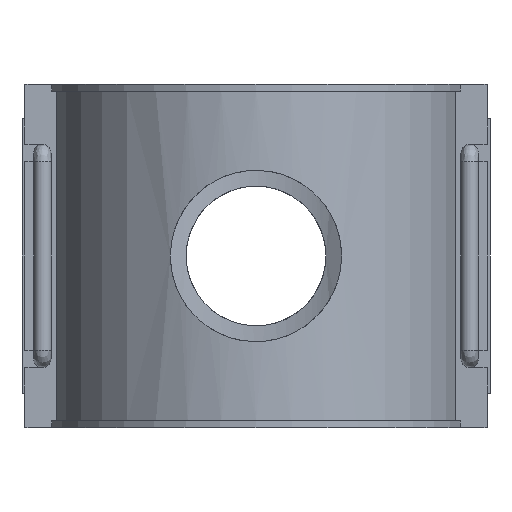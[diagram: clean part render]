
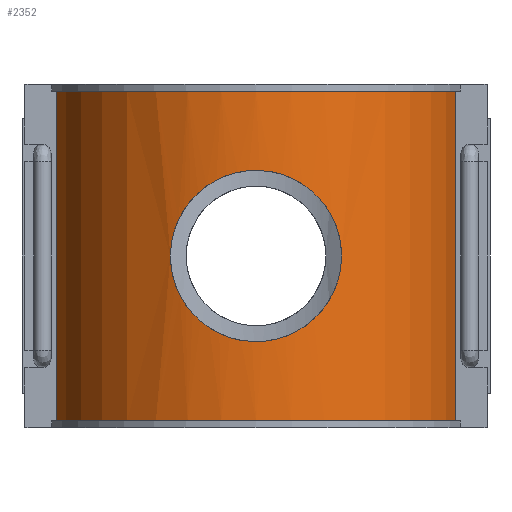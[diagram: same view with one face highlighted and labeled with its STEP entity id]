
A CAD part, front view. The second image highlights one B-rep face of the part: STEP entity #2352.
In plain terms, the highlighted cylindrical face has radius 70.258 mm (diameter 140.516 mm), a partial arc.
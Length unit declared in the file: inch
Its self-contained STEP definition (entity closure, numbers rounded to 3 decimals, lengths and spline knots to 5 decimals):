
#29=FACE_BOUND('',#335,.T.);
#142=B_SPLINE_CURVE_WITH_KNOTS('',3,(#3446,#3447,#3448,#3449,#3450,#3451,
#3452,#3453,#3454,#3455,#3456,#3457,#3458,#3459,#3460,#3461,#3462,#3463,
#3464,#3465,#3466,#3467,#3468,#3469,#3470,#3471,#3472,#3473,#3474,#3475,
#3476,#3477,#3478,#3479),.UNSPECIFIED.,.F.,.F.,(4,2,2,2,2,2,2,2,2,2,2,2,
2,2,2,2,4),(0.,0.56263,1.12526,1.6879,2.25053,
2.81246,3.37439,3.93633,4.49826,5.0602,
5.62213,6.18406,6.746,7.30863,7.87126,
8.43389,8.99653),.UNSPECIFIED.);
#143=B_SPLINE_CURVE_WITH_KNOTS('',3,(#3480,#3481,#3482,#3483,#3484,#3485,
#3486,#3487,#3488,#3489,#3490,#3491,#3492,#3493,#3494,#3495,#3496,#3497,
#3498,#3499,#3500,#3501,#3502,#3503,#3504,#3505,#3506,#3507,#3508,#3509,
#3510,#3511,#3512,#3513),.UNSPECIFIED.,.F.,.F.,(4,2,2,2,2,2,2,2,2,2,2,2,
2,2,2,2,4),(8.99653,9.55916,10.12179,10.68442,
11.24705,11.80899,12.37092,12.93285,13.49479,
14.05672,14.61866,15.18059,15.74252,16.30516,
16.86779,17.43042,17.99305),.UNSPECIFIED.);
#194=FACE_OUTER_BOUND('',#334,.T.);
#334=EDGE_LOOP('',(#1734,#1735,#1736,#1737));
#335=EDGE_LOOP('',(#1738,#1739));
#478=CIRCLE('',#2510,2.76606);
#486=CIRCLE('',#2524,2.76606);
#571=LINE('',#3943,#805);
#606=LINE('',#4161,#840);
#805=VECTOR('',#2776,0.3937);
#840=VECTOR('',#2853,0.3937);
#1028=VERTEX_POINT('',#3443);
#1029=VERTEX_POINT('',#3445);
#1050=VERTEX_POINT('',#3928);
#1051=VERTEX_POINT('',#3930);
#1055=VERTEX_POINT('',#3942);
#1072=VERTEX_POINT('',#3985);
#1256=EDGE_CURVE('',#1029,#1028,#142,.T.);
#1257=EDGE_CURVE('',#1028,#1029,#143,.T.);
#1286=EDGE_CURVE('',#1050,#1051,#478,.T.);
#1291=EDGE_CURVE('',#1050,#1055,#571,.T.);
#1313=EDGE_CURVE('',#1072,#1055,#486,.T.);
#1348=EDGE_CURVE('',#1051,#1072,#606,.T.);
#1734=ORIENTED_EDGE('',*,*,#1286,.T.);
#1735=ORIENTED_EDGE('',*,*,#1348,.T.);
#1736=ORIENTED_EDGE('',*,*,#1313,.T.);
#1737=ORIENTED_EDGE('',*,*,#1291,.F.);
#1738=ORIENTED_EDGE('',*,*,#1256,.T.);
#1739=ORIENTED_EDGE('',*,*,#1257,.T.);
#2307=CYLINDRICAL_SURFACE('',#2534,2.76606);
#2352=ADVANCED_FACE('',(#194,#29),#2307,.T.);
#2510=AXIS2_PLACEMENT_3D('',#3932,#2766,#2767);
#2524=AXIS2_PLACEMENT_3D('',#3986,#2813,#2814);
#2534=AXIS2_PLACEMENT_3D('',#4162,#2854,#2855);
#2766=DIRECTION('center_axis',(0.,0.,1.));
#2767=DIRECTION('ref_axis',(1.,0.,0.));
#2776=DIRECTION('',(0.,0.,1.));
#2813=DIRECTION('center_axis',(0.,0.,-1.));
#2814=DIRECTION('ref_axis',(1.,0.,0.));
#2853=DIRECTION('',(0.,0.,1.));
#2854=DIRECTION('center_axis',(0.,0.,1.));
#2855=DIRECTION('ref_axis',(1.,0.,0.));
#3443=CARTESIAN_POINT('',(-1.15941,-2.51135,0.));
#3445=CARTESIAN_POINT('',(1.15941,-2.51135,0.));
#3446=CARTESIAN_POINT('Ctrl Pts',(1.15941,-2.51135,0.));
#3447=CARTESIAN_POINT('Ctrl Pts',(1.15941,-2.51135,-0.07384));
#3448=CARTESIAN_POINT('Ctrl Pts',(1.15224,-2.5147,-0.14985));
#3449=CARTESIAN_POINT('Ctrl Pts',(1.12244,-2.52814,-0.30041));
#3450=CARTESIAN_POINT('Ctrl Pts',(1.09981,-2.53822,-0.37496));
#3451=CARTESIAN_POINT('Ctrl Pts',(1.0404,-2.56315,-0.51746));
#3452=CARTESIAN_POINT('Ctrl Pts',(1.00356,-2.57799,-0.58552));
#3453=CARTESIAN_POINT('Ctrl Pts',(0.91878,-2.6094,-0.71121));
#3454=CARTESIAN_POINT('Ctrl Pts',(0.87082,-2.62595,-0.76883));
#3455=CARTESIAN_POINT('Ctrl Pts',(0.76889,-2.65758,-0.87076));
#3456=CARTESIAN_POINT('Ctrl Pts',(0.71131,-2.67382,-0.91871));
#3457=CARTESIAN_POINT('Ctrl Pts',(0.5856,-2.70414,-1.00352));
#3458=CARTESIAN_POINT('Ctrl Pts',(0.51749,-2.71818,-1.04039));
#3459=CARTESIAN_POINT('Ctrl Pts',(0.3749,-2.74149,-1.09984));
#3460=CARTESIAN_POINT('Ctrl Pts',(0.3003,-2.75075,-1.12247));
#3461=CARTESIAN_POINT('Ctrl Pts',(0.14973,-2.76304,-1.15226));
#3462=CARTESIAN_POINT('Ctrl Pts',(0.07374,-2.76606,
-1.15941));
#3463=CARTESIAN_POINT('Ctrl Pts',(-0.07374,-2.76606,
-1.15941));
#3464=CARTESIAN_POINT('Ctrl Pts',(-0.14973,-2.76304,
-1.15226));
#3465=CARTESIAN_POINT('Ctrl Pts',(-0.3003,-2.75075,
-1.12247));
#3466=CARTESIAN_POINT('Ctrl Pts',(-0.3749,-2.74149,
-1.09984));
#3467=CARTESIAN_POINT('Ctrl Pts',(-0.51749,-2.71818,-1.04039));
#3468=CARTESIAN_POINT('Ctrl Pts',(-0.5856,-2.70414,
-1.00352));
#3469=CARTESIAN_POINT('Ctrl Pts',(-0.71131,-2.67382,
-0.91871));
#3470=CARTESIAN_POINT('Ctrl Pts',(-0.76889,-2.65758,
-0.87076));
#3471=CARTESIAN_POINT('Ctrl Pts',(-0.87082,-2.62595,
-0.76883));
#3472=CARTESIAN_POINT('Ctrl Pts',(-0.91878,-2.6094,
-0.71121));
#3473=CARTESIAN_POINT('Ctrl Pts',(-1.00356,-2.57799,-0.58552));
#3474=CARTESIAN_POINT('Ctrl Pts',(-1.0404,-2.56315,-0.51746));
#3475=CARTESIAN_POINT('Ctrl Pts',(-1.09981,-2.53822,-0.37496));
#3476=CARTESIAN_POINT('Ctrl Pts',(-1.12244,-2.52814,-0.30041));
#3477=CARTESIAN_POINT('Ctrl Pts',(-1.15224,-2.5147,-0.14985));
#3478=CARTESIAN_POINT('Ctrl Pts',(-1.15941,-2.51135,-0.07384));
#3479=CARTESIAN_POINT('Ctrl Pts',(-1.15941,-2.51135,0.));
#3480=CARTESIAN_POINT('Ctrl Pts',(-1.15941,-2.51135,0.));
#3481=CARTESIAN_POINT('Ctrl Pts',(-1.15941,-2.51135,0.07384));
#3482=CARTESIAN_POINT('Ctrl Pts',(-1.15224,-2.5147,0.14985));
#3483=CARTESIAN_POINT('Ctrl Pts',(-1.12244,-2.52814,0.30041));
#3484=CARTESIAN_POINT('Ctrl Pts',(-1.09981,-2.53822,0.37496));
#3485=CARTESIAN_POINT('Ctrl Pts',(-1.0404,-2.56315,0.51746));
#3486=CARTESIAN_POINT('Ctrl Pts',(-1.00356,-2.57799,0.58552));
#3487=CARTESIAN_POINT('Ctrl Pts',(-0.91878,-2.6094,
0.71121));
#3488=CARTESIAN_POINT('Ctrl Pts',(-0.87082,-2.62595,
0.76883));
#3489=CARTESIAN_POINT('Ctrl Pts',(-0.76889,-2.65758,
0.87076));
#3490=CARTESIAN_POINT('Ctrl Pts',(-0.71131,-2.67382,
0.91871));
#3491=CARTESIAN_POINT('Ctrl Pts',(-0.5856,-2.70414,
1.00352));
#3492=CARTESIAN_POINT('Ctrl Pts',(-0.51749,-2.71818,1.04039));
#3493=CARTESIAN_POINT('Ctrl Pts',(-0.3749,-2.74149,
1.09984));
#3494=CARTESIAN_POINT('Ctrl Pts',(-0.3003,-2.75075,
1.12247));
#3495=CARTESIAN_POINT('Ctrl Pts',(-0.14973,-2.76304,
1.15226));
#3496=CARTESIAN_POINT('Ctrl Pts',(-0.07374,-2.76606,
1.15941));
#3497=CARTESIAN_POINT('Ctrl Pts',(0.07374,-2.76606,
1.15941));
#3498=CARTESIAN_POINT('Ctrl Pts',(0.14973,-2.76304,1.15226));
#3499=CARTESIAN_POINT('Ctrl Pts',(0.3003,-2.75075,1.12247));
#3500=CARTESIAN_POINT('Ctrl Pts',(0.3749,-2.74149,1.09984));
#3501=CARTESIAN_POINT('Ctrl Pts',(0.51749,-2.71818,1.04039));
#3502=CARTESIAN_POINT('Ctrl Pts',(0.5856,-2.70414,1.00352));
#3503=CARTESIAN_POINT('Ctrl Pts',(0.71131,-2.67382,0.91871));
#3504=CARTESIAN_POINT('Ctrl Pts',(0.76889,-2.65758,0.87076));
#3505=CARTESIAN_POINT('Ctrl Pts',(0.87082,-2.62595,0.76883));
#3506=CARTESIAN_POINT('Ctrl Pts',(0.91878,-2.6094,0.71121));
#3507=CARTESIAN_POINT('Ctrl Pts',(1.00356,-2.57799,0.58552));
#3508=CARTESIAN_POINT('Ctrl Pts',(1.0404,-2.56315,0.51746));
#3509=CARTESIAN_POINT('Ctrl Pts',(1.09981,-2.53822,0.37496));
#3510=CARTESIAN_POINT('Ctrl Pts',(1.12244,-2.52814,0.30041));
#3511=CARTESIAN_POINT('Ctrl Pts',(1.15224,-2.5147,0.14985));
#3512=CARTESIAN_POINT('Ctrl Pts',(1.15941,-2.51135,0.07384));
#3513=CARTESIAN_POINT('Ctrl Pts',(1.15941,-2.51135,0.));
#3928=CARTESIAN_POINT('',(-2.70847,-0.56152,-2.232));
#3930=CARTESIAN_POINT('',(2.70847,-0.56152,-2.232));
#3932=CARTESIAN_POINT('Origin',(0.,0.,-2.232));
#3942=CARTESIAN_POINT('',(-2.70847,-0.56152,2.232));
#3943=CARTESIAN_POINT('',(-2.70847,-0.56152,0.));
#3985=CARTESIAN_POINT('',(2.70847,-0.56152,2.232));
#3986=CARTESIAN_POINT('Origin',(0.,0.,2.232));
#4161=CARTESIAN_POINT('',(2.70847,-0.56152,0.));
#4162=CARTESIAN_POINT('Origin',(0.,0.,0.));
